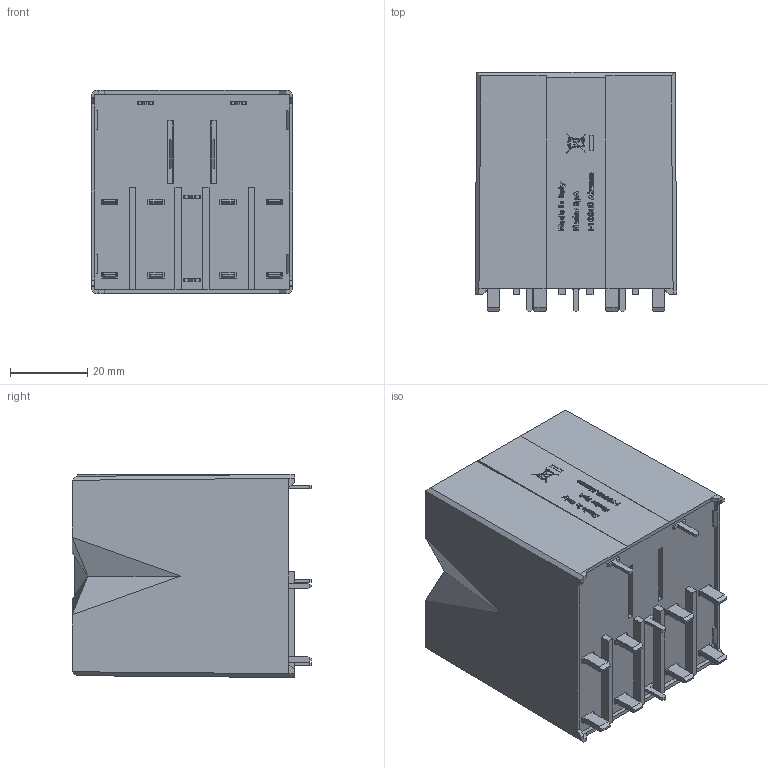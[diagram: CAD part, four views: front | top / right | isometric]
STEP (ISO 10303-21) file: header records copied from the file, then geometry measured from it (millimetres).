
FILE_DESCRIPTION(/* description */ ('Unknown'),/* implementation_level */ '2;1');
FILE_NAME(/* name */ '6825',/* time_stamp */ '2021-10-25T17:45:28+02:00',/* author */ ('Unknown'),/* organization */ ('Unknown'),/* preprocessor_version */ 'ST-DEVELOPER v16.7',/* originating_system */ 'DEX',/* authorisation */ $);
FILE_SCHEMA (('AUTOMOTIVE_DESIGN {1 0 10303 214 3 1 1}'));
Length unit declared in the file: millimetre
Products named in the file (1): 6825
Bounding box: 52.2 x 61.95 x 52.5 mm (x, y, z)
Surface area: 22336.8 mm2 (no closed solid volume)
Topology: 0 solids, 15 shells, 718 faces, 2127 edges, 1485 vertices
Faces by surface type: plane 596, bspline 70, cylinder 48, cone 2, torus 2
Full cylindrical faces by diameter (mm): 0.252 x1, 0.374 x2, 1.5 x2
Entity records: 26354 total; most frequent: CARTESIAN_POINT 7573, ORIENTED_EDGE 3864, DIRECTION 3404, EDGE_CURVE 2095, LINE 1802, VECTOR 1802, VERTEX_POINT 1477, EDGE_LOOP 824
